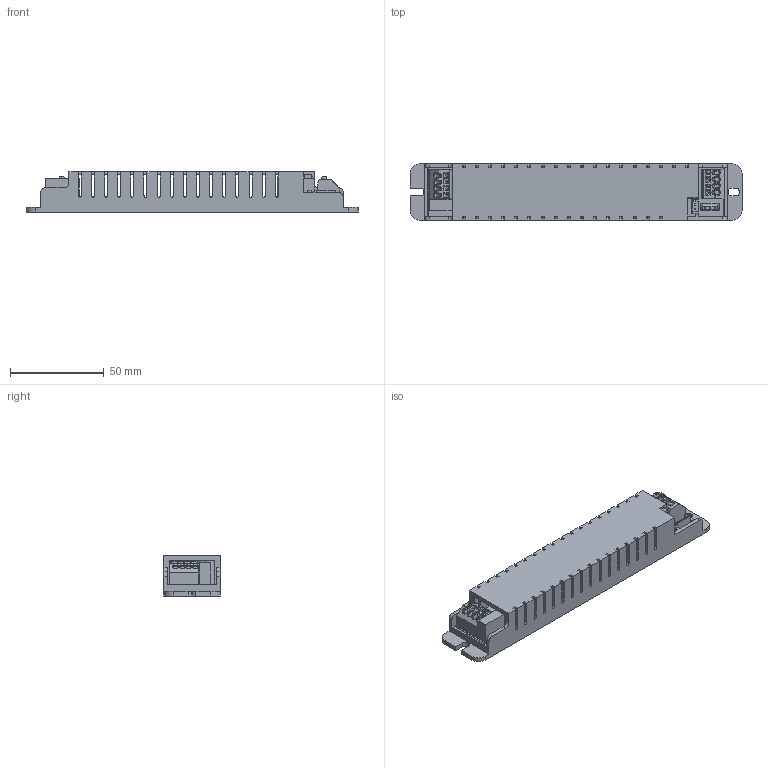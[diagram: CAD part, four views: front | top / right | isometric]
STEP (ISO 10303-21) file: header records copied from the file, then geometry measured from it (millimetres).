
FILE_DESCRIPTION (( 'STEP AP214' ), '1' );
FILE_NAME ('LELT-S V22.STEP', '2019-12-20T11:28:53', ( '' ), ( '' ), 'SwSTEP 2.0', 'SolidWorks 2020', '' );
FILE_SCHEMA (( 'AUTOMOTIVE_DESIGN' ));
Length unit declared in the file: millimetre
Products named in the file (11): 285110 plastic housing bottom type T V14; 285110 plastic housing top type T V17; LELT-S V22; 250-4 pol Klemme; 160494V11 LELT-OP Print; B2B-EH-A; 100nF 275V X2; 680uF_100V; B3B-EH-A; FX2-AXICOM-D3202
Assembly tree (11 placements, depth 3):
  LELT-S V22
    285110 plastic housing top type T V17
    285110 plastic housing bottom type T V14
    LELT-S V22
      160494V11 LELT-OP Print
      B3B-EH-A
      B2B-EH-A
      100nF 275V X2
      680uF_100V
      250-4 pol Klemme  x2
      FX2-AXICOM-D3202
Bounding box: 177 x 30 x 21.5 mm (x, y, z)
Volume: 36363.2 mm3; surface area: 47189.1 mm2
Topology: 10 solids, 10 shells, 1165 faces, 3421 edges, 2268 vertices
Faces by surface type: plane 805, cylinder 210, bspline 134, cone 16
Entity records: 40922 total; most frequent: CARTESIAN_POINT 14707, ORIENTED_EDGE 5816, DIRECTION 4672, EDGE_CURVE 2908, LINE 2274, VECTOR 2274, VERTEX_POINT 1930, AXIS2_PLACEMENT_3D 1199
